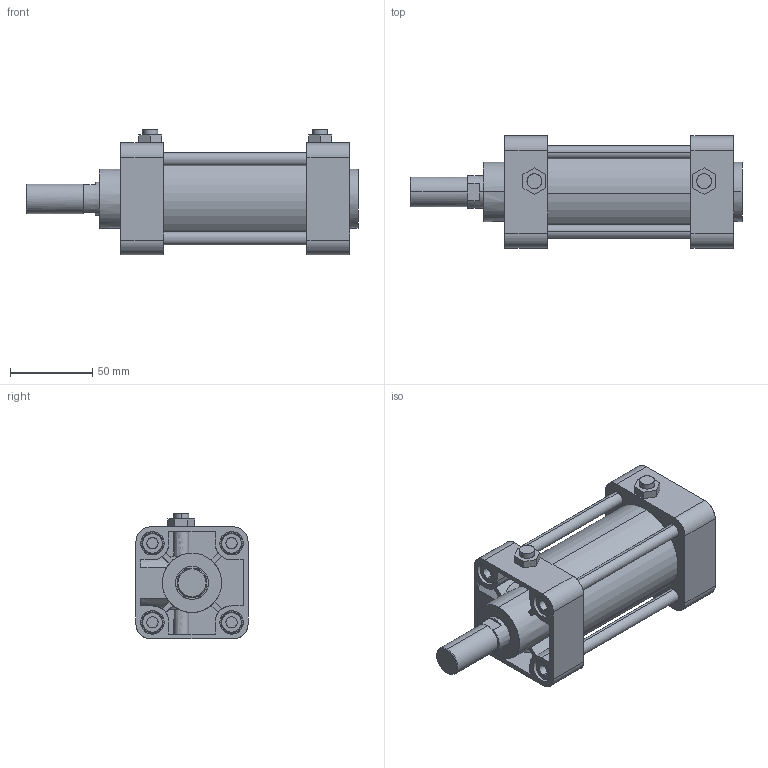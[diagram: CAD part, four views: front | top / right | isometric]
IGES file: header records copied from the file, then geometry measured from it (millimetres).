
Start section: SolidWorks IGES file using analytic representation for surfaces
Global section: file name: C:\Users\Toshiba\Desktop\KG2-50-50-N.IGS; native system: SolidWorks 2014; preprocessor: SolidWorks 2014; author: Toshiba; date: 160401.161258; units: millimetre
Bounding box: 201.5 x 68 x 76.3 mm (x, y, z)
Surface area: 99242.3 mm2 (no closed solid volume)
Topology: 0 solids, 0 shells, 325 faces, 4932 edges, 4928 vertices
Faces by surface type: bspline 173, revolution 152
